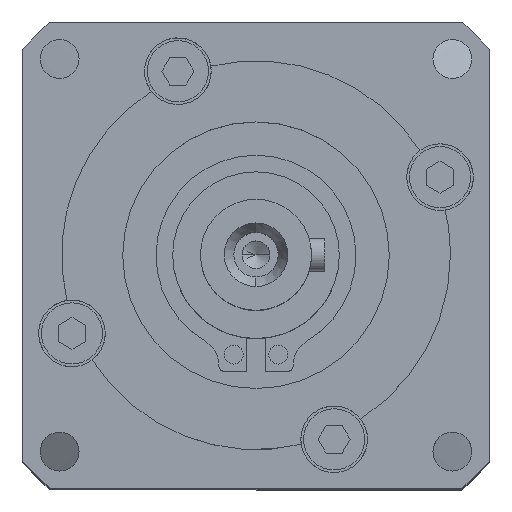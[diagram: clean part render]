
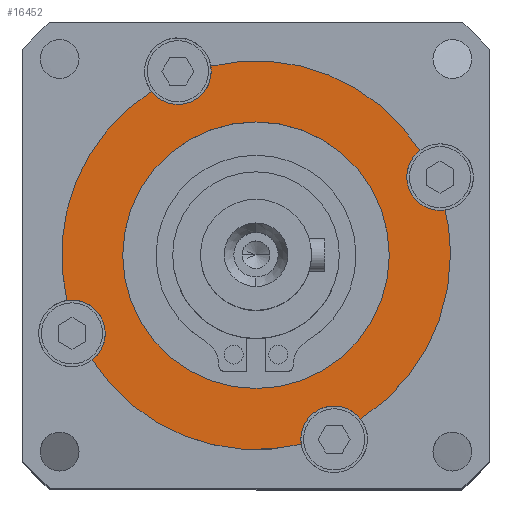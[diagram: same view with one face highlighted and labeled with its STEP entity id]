
A CAD part, top view. The second image highlights one B-rep face of the part: STEP entity #16452.
In plain terms, the highlighted planar face has unit normal (0, 0, 1).
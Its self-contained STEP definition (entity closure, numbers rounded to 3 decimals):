
#227 = DIRECTION ( 'NONE',  ( -1., 0., 0. ) ) ;
#231 = DIRECTION ( 'NONE',  ( 0., 0., -1. ) ) ;
#309 = CARTESIAN_POINT ( 'NONE',  ( 7.033, -16.569, 0. ) ) ;
#405 = ORIENTED_EDGE ( 'NONE', *, *, #18988, .T. ) ;
#583 = CIRCLE ( 'NONE', #920, 3. ) ;
#593 = CARTESIAN_POINT ( 'NONE',  ( 4.033, -16.569, 0. ) ) ;
#613 = EDGE_CURVE ( 'NONE', #9238, #24189, #14062, .T. ) ;
#821 = CIRCLE ( 'NONE', #8813, 12. ) ;
#920 = AXIS2_PLACEMENT_3D ( 'NONE', #309, #231, #227 ) ;
#983 = DIRECTION ( 'NONE',  ( 1., 0., 0. ) ) ;
#988 = DIRECTION ( 'NONE',  ( 0., 0., 1. ) ) ;
#1013 = CARTESIAN_POINT ( 'NONE',  ( 0., 0., 0. ) ) ;
#1281 = CARTESIAN_POINT ( 'NONE',  ( 0., 12., 0. ) ) ;
#1544 = AXIS2_PLACEMENT_3D ( 'NONE', #14147, #13972, #13892 ) ;
#2025 = CARTESIAN_POINT ( 'NONE',  ( 14.749, 9.418, 0. ) ) ;
#2132 = AXIS2_PLACEMENT_3D ( 'NONE', #16278, #16257, #16210 ) ;
#2943 = VERTEX_POINT ( 'NONE', #8376 ) ;
#3268 = VERTEX_POINT ( 'NONE', #5590 ) ;
#3421 = EDGE_CURVE ( 'NONE', #14177, #24189, #16159, .T. ) ;
#3563 = VERTEX_POINT ( 'NONE', #2025 ) ;
#3722 = EDGE_CURVE ( 'NONE', #14177, #19763, #14014, .T. ) ;
#3828 = DIRECTION ( 'NONE',  ( 1., 0., 0. ) ) ;
#3862 = DIRECTION ( 'NONE',  ( 0., 0., -1. ) ) ;
#3916 = CARTESIAN_POINT ( 'NONE',  ( 0., 0., 0. ) ) ;
#4053 = VERTEX_POINT ( 'NONE', #21587 ) ;
#4180 = FACE_BOUND ( 'NONE', #20636, .T. ) ;
#4319 = DIRECTION ( 'NONE',  ( -1., 0., 0. ) ) ;
#4336 = DIRECTION ( 'NONE',  ( 0., 0., -1. ) ) ;
#4374 = CARTESIAN_POINT ( 'NONE',  ( -14.749, -9.418, 0. ) ) ;
#4622 = PLANE ( 'NONE',  #16042 ) ;
#4671 = CARTESIAN_POINT ( 'NONE',  ( -13.569, -7.033, 0. ) ) ;
#4708 = DIRECTION ( 'NONE',  ( -1., 0., 0. ) ) ;
#4736 = DIRECTION ( 'NONE',  ( 0., 0., -1. ) ) ;
#4762 = CARTESIAN_POINT ( 'NONE',  ( -16.569, -7.033, 0. ) ) ;
#4875 = CARTESIAN_POINT ( 'NONE',  ( -4.067, 17.021, 0. ) ) ;
#4877 = EDGE_CURVE ( 'NONE', #12371, #3563, #15318, .T. ) ;
#4951 = EDGE_CURVE ( 'NONE', #12371, #9238, #18665, .T. ) ;
#5530 = AXIS2_PLACEMENT_3D ( 'NONE', #13538, #13285, #12270 ) ;
#5590 = CARTESIAN_POINT ( 'NONE',  ( -12., 0., 0. ) ) ;
#5785 = ORIENTED_EDGE ( 'NONE', *, *, #19757, .T. ) ;
#6095 = CIRCLE ( 'NONE', #7491, 3. ) ;
#6397 = CIRCLE ( 'NONE', #7412, 17.5 ) ;
#6401 = ORIENTED_EDGE ( 'NONE', *, *, #23499, .F. ) ;
#6430 = AXIS2_PLACEMENT_3D ( 'NONE', #15258, #15229, #15174 ) ;
#6704 = ORIENTED_EDGE ( 'NONE', *, *, #10818, .F. ) ;
#7334 = AXIS2_PLACEMENT_3D ( 'NONE', #16240, #16217, #16211 ) ;
#7412 = AXIS2_PLACEMENT_3D ( 'NONE', #22472, #22441, #22419 ) ;
#7491 = AXIS2_PLACEMENT_3D ( 'NONE', #22302, #22269, #22246 ) ;
#7910 = ORIENTED_EDGE ( 'NONE', *, *, #3722, .T. ) ;
#8376 = CARTESIAN_POINT ( 'NONE',  ( 12., 0., 0. ) ) ;
#8813 = AXIS2_PLACEMENT_3D ( 'NONE', #1013, #988, #983 ) ;
#9002 = EDGE_CURVE ( 'NONE', #15388, #21932, #6397, .T. ) ;
#9041 = EDGE_CURVE ( 'NONE', #4053, #3563, #6095, .T. ) ;
#9238 = VERTEX_POINT ( 'NONE', #20563 ) ;
#9388 = ORIENTED_EDGE ( 'NONE', *, *, #9041, .T. ) ;
#10314 = CARTESIAN_POINT ( 'NONE',  ( 17.5, 0., 0. ) ) ;
#10386 = DIRECTION ( 'NONE',  ( 0., 0., -1. ) ) ;
#10796 = ORIENTED_EDGE ( 'NONE', *, *, #9002, .F. ) ;
#10814 = VERTEX_POINT ( 'NONE', #593 ) ;
#10818 = EDGE_CURVE ( 'NONE', #3268, #2943, #16397, .T. ) ;
#11139 = CIRCLE ( 'NONE', #1544, 3. ) ;
#12148 = VERTEX_POINT ( 'NONE', #21172 ) ;
#12270 = DIRECTION ( 'NONE',  ( -1., 0., 0. ) ) ;
#12371 = VERTEX_POINT ( 'NONE', #4875 ) ;
#13285 = DIRECTION ( 'NONE',  ( 0., 0., -1. ) ) ;
#13538 = CARTESIAN_POINT ( 'NONE',  ( -7.033, 16.569, 0. ) ) ;
#13568 = CARTESIAN_POINT ( 'NONE',  ( -17.021, -4.067, 0. ) ) ;
#13684 = ORIENTED_EDGE ( 'NONE', *, *, #18340, .F. ) ;
#13783 = CARTESIAN_POINT ( 'NONE',  ( -16.569, -7.033, 0. ) ) ;
#13892 = DIRECTION ( 'NONE',  ( -1., 0., 0. ) ) ;
#13932 = EDGE_CURVE ( 'NONE', #24312, #21951, #22332, .T. ) ;
#13972 = DIRECTION ( 'NONE',  ( 0., 0., -1. ) ) ;
#14014 = CIRCLE ( 'NONE', #20236, 3. ) ;
#14062 = CIRCLE ( 'NONE', #5530, 3. ) ;
#14147 = CARTESIAN_POINT ( 'NONE',  ( 16.569, 7.033, 0. ) ) ;
#14177 = VERTEX_POINT ( 'NONE', #13568 ) ;
#14454 = ORIENTED_EDGE ( 'NONE', *, *, #4951, .T. ) ;
#14583 = CARTESIAN_POINT ( 'NONE',  ( 0., 0., 0. ) ) ;
#14886 = AXIS2_PLACEMENT_3D ( 'NONE', #17833, #17751, #17719 ) ;
#15174 = DIRECTION ( 'NONE',  ( -1., 0., 0. ) ) ;
#15210 = CIRCLE ( 'NONE', #14886, 3. ) ;
#15229 = DIRECTION ( 'NONE',  ( 0., 0., -1. ) ) ;
#15258 = CARTESIAN_POINT ( 'NONE',  ( -7.033, 16.569, 0. ) ) ;
#15318 = CIRCLE ( 'NONE', #7334, 17.5 ) ;
#15388 = VERTEX_POINT ( 'NONE', #17624 ) ;
#16042 = AXIS2_PLACEMENT_3D ( 'NONE', #1281, #4336, #4319 ) ;
#16123 = ORIENTED_EDGE ( 'NONE', *, *, #613, .T. ) ;
#16159 = CIRCLE ( 'NONE', #23752, 17.5 ) ;
#16211 = DIRECTION ( 'NONE',  ( 1., 0., 0. ) ) ;
#16210 = DIRECTION ( 'NONE',  ( 1., 0., 0. ) ) ;
#16217 = DIRECTION ( 'NONE',  ( 0., 0., -1. ) ) ;
#16240 = CARTESIAN_POINT ( 'NONE',  ( 0., 0., 0. ) ) ;
#16257 = DIRECTION ( 'NONE',  ( 0., 0., -1. ) ) ;
#16278 = CARTESIAN_POINT ( 'NONE',  ( 0., 0., 0. ) ) ;
#16303 = CIRCLE ( 'NONE', #24970, 3. ) ;
#16397 = CIRCLE ( 'NONE', #21756, 12. ) ;
#16452 = ADVANCED_FACE ( 'NONE', ( #23531, #4180 ), #4622, .F. ) ;
#16964 = ORIENTED_EDGE ( 'NONE', *, *, #18061, .T. ) ;
#17527 = CIRCLE ( 'NONE', #21254, 17.5 ) ;
#17624 = CARTESIAN_POINT ( 'NONE',  ( 17.021, 4.067, 0. ) ) ;
#17719 = DIRECTION ( 'NONE',  ( -1., 0., 0. ) ) ;
#17751 = DIRECTION ( 'NONE',  ( 0., 0., -1. ) ) ;
#17833 = CARTESIAN_POINT ( 'NONE',  ( 7.033, -16.569, 0. ) ) ;
#18061 = EDGE_CURVE ( 'NONE', #10814, #12148, #583, .T. ) ;
#18340 = EDGE_CURVE ( 'NONE', #21932, #12148, #17527, .T. ) ;
#18665 = CIRCLE ( 'NONE', #6430, 3. ) ;
#18988 = EDGE_CURVE ( 'NONE', #24312, #10814, #15210, .T. ) ;
#19757 = EDGE_CURVE ( 'NONE', #19763, #21951, #16303, .T. ) ;
#19763 = VERTEX_POINT ( 'NONE', #4671 ) ;
#20236 = AXIS2_PLACEMENT_3D ( 'NONE', #13783, #23273, #20628 ) ;
#20563 = CARTESIAN_POINT ( 'NONE',  ( -4.033, 16.569, 0. ) ) ;
#20628 = DIRECTION ( 'NONE',  ( -1., 0., 0. ) ) ;
#20636 = EDGE_LOOP ( 'NONE', ( #6401, #6704 ) ) ;
#20933 = CARTESIAN_POINT ( 'NONE',  ( 0., 0., 0. ) ) ;
#21172 = CARTESIAN_POINT ( 'NONE',  ( 9.418, -14.749, 0. ) ) ;
#21250 = EDGE_CURVE ( 'NONE', #15388, #4053, #11139, .T. ) ;
#21254 = AXIS2_PLACEMENT_3D ( 'NONE', #20933, #10386, #23471 ) ;
#21587 = CARTESIAN_POINT ( 'NONE',  ( 13.569, 7.033, 0. ) ) ;
#21643 = ORIENTED_EDGE ( 'NONE', *, *, #4877, .F. ) ;
#21731 = CARTESIAN_POINT ( 'NONE',  ( 4.067, -17.021, 0. ) ) ;
#21756 = AXIS2_PLACEMENT_3D ( 'NONE', #14583, #22691, #24028 ) ;
#21883 = ORIENTED_EDGE ( 'NONE', *, *, #13932, .F. ) ;
#21932 = VERTEX_POINT ( 'NONE', #10314 ) ;
#21951 = VERTEX_POINT ( 'NONE', #4374 ) ;
#22123 = EDGE_LOOP ( 'NONE', ( #23785, #7910, #5785, #21883, #405, #16964, #13684, #10796, #24762, #9388, #21643, #14454, #16123 ) ) ;
#22246 = DIRECTION ( 'NONE',  ( -1., 0., 0. ) ) ;
#22269 = DIRECTION ( 'NONE',  ( 0., 0., -1. ) ) ;
#22302 = CARTESIAN_POINT ( 'NONE',  ( 16.569, 7.033, 0. ) ) ;
#22332 = CIRCLE ( 'NONE', #2132, 17.5 ) ;
#22419 = DIRECTION ( 'NONE',  ( 1., 0., 0. ) ) ;
#22441 = DIRECTION ( 'NONE',  ( 0., 0., -1. ) ) ;
#22472 = CARTESIAN_POINT ( 'NONE',  ( 0., 0., 0. ) ) ;
#22691 = DIRECTION ( 'NONE',  ( 0., 0., 1. ) ) ;
#23273 = DIRECTION ( 'NONE',  ( 0., 0., -1. ) ) ;
#23471 = DIRECTION ( 'NONE',  ( 1., 0., 0. ) ) ;
#23499 = EDGE_CURVE ( 'NONE', #2943, #3268, #821, .T. ) ;
#23531 = FACE_OUTER_BOUND ( 'NONE', #22123, .T. ) ;
#23752 = AXIS2_PLACEMENT_3D ( 'NONE', #3916, #3862, #3828 ) ;
#23785 = ORIENTED_EDGE ( 'NONE', *, *, #3421, .F. ) ;
#23985 = CARTESIAN_POINT ( 'NONE',  ( -9.418, 14.749, 0. ) ) ;
#24028 = DIRECTION ( 'NONE',  ( 1., 0., 0. ) ) ;
#24189 = VERTEX_POINT ( 'NONE', #23985 ) ;
#24312 = VERTEX_POINT ( 'NONE', #21731 ) ;
#24762 = ORIENTED_EDGE ( 'NONE', *, *, #21250, .T. ) ;
#24970 = AXIS2_PLACEMENT_3D ( 'NONE', #4762, #4736, #4708 ) ;
